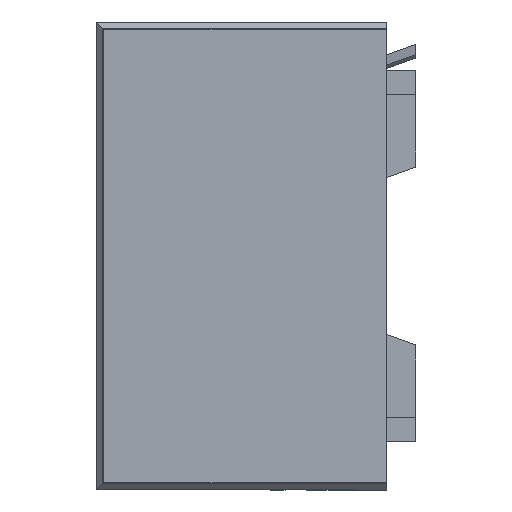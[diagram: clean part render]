
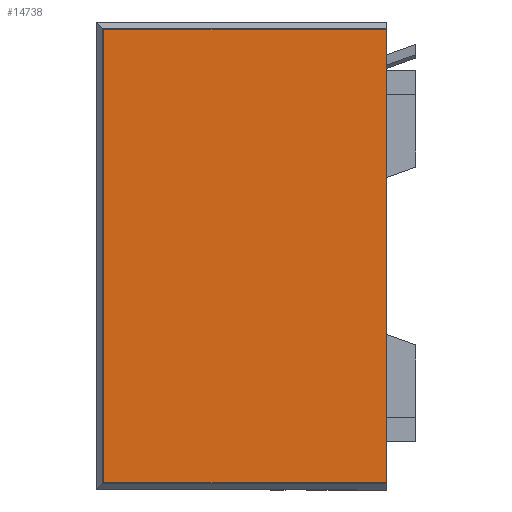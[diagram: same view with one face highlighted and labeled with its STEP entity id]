
A CAD part, left-side view. The second image highlights one B-rep face of the part: STEP entity #14738.
In plain terms, the highlighted planar face has unit normal (-1, 0, 0) as drawn and (0, 0, -1) by its records, which use the part's own axes.
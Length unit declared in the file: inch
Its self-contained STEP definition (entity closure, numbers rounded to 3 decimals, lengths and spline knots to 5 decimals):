
#3202=FACE_OUTER_BOUND('',#4094,.T.);
#4094=EDGE_LOOP('',(#12039,#12040,#12041,#12042));
#5236=LINE('',#24372,#6606);
#5237=LINE('',#24374,#6607);
#5238=LINE('',#24376,#6608);
#5239=LINE('',#24377,#6609);
#6606=VECTOR('',#19496,0.3937);
#6607=VECTOR('',#19497,0.3937);
#6608=VECTOR('',#19498,0.3937);
#6609=VECTOR('',#19499,0.3937);
#7834=VERTEX_POINT('',#24370);
#7835=VERTEX_POINT('',#24371);
#7836=VERTEX_POINT('',#24373);
#7837=VERTEX_POINT('',#24375);
#9296=EDGE_CURVE('',#7834,#7835,#5236,.T.);
#9297=EDGE_CURVE('',#7836,#7834,#5237,.T.);
#9298=EDGE_CURVE('',#7836,#7837,#5238,.T.);
#9299=EDGE_CURVE('',#7835,#7837,#5239,.T.);
#12039=ORIENTED_EDGE('',*,*,#9296,.F.);
#12040=ORIENTED_EDGE('',*,*,#9297,.F.);
#12041=ORIENTED_EDGE('',*,*,#9298,.T.);
#12042=ORIENTED_EDGE('',*,*,#9299,.F.);
#14083=PLANE('',#16583);
#14738=ADVANCED_FACE('',(#3202),#14083,.F.);
#16583=AXIS2_PLACEMENT_3D('',#24369,#19494,#19495);
#19494=DIRECTION('center_axis',(0.,0.,1.));
#19495=DIRECTION('ref_axis',(1.,0.,0.));
#19496=DIRECTION('',(0.,1.,0.));
#19497=DIRECTION('',(1.,0.,0.));
#19498=DIRECTION('',(0.,1.,0.));
#19499=DIRECTION('',(-1.,0.,0.));
#24369=CARTESIAN_POINT('Origin',(48.375,30.,0.));
#24370=CARTESIAN_POINT('',(95.25,0.,0.));
#24371=CARTESIAN_POINT('',(95.25,58.5,0.));
#24372=CARTESIAN_POINT('',(95.25,0.,0.));
#24373=CARTESIAN_POINT('',(1.5,0.,0.));
#24374=CARTESIAN_POINT('',(0.,0.,0.));
#24375=CARTESIAN_POINT('',(1.5,58.5,0.));
#24376=CARTESIAN_POINT('',(1.5,0.,0.));
#24377=CARTESIAN_POINT('',(24.9375,58.5,0.));
